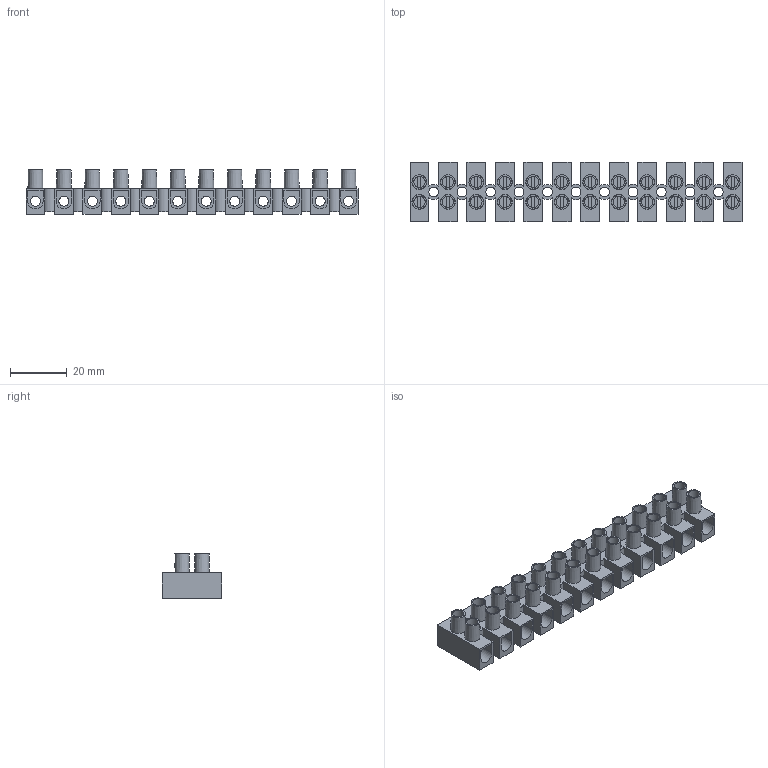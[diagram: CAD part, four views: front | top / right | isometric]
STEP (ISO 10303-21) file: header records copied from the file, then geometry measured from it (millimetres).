
FILE_DESCRIPTION(/* description */ ('Unknown'),/* implementation_level */ '2;1');
FILE_NAME(/* name */ 'MT 1106 PH',/* time_stamp */ '2021-10-08T10:10:41+02:00',/* author */ ('Unknown'),/* organization */ ('Unknown'),/* preprocessor_version */ 'ST-DEVELOPER v16.7',/* originating_system */ 'Solid Edge',/* authorisation */ 'Unknown');
FILE_SCHEMA (('AP203_CONFIGURATION_CONTROLLED_3D_DESIGN_OF_MECHANICAL_PARTS_AND_ASSEMBLIES_MIM_LF { 1 0 10303 203 3 1 4 }','AUTOMOTIVE_DESIGN {1 0 10303 214 3 1 1}'));
Length unit declared in the file: millimetre
Products named in the file (1): MT 1106 PH
Bounding box: 116.6 x 21 x 15.7 mm (x, y, z)
Volume: 11429.5 mm3; surface area: 18566.5 mm2
Topology: 1 solids, 1 shells, 500 faces, 1254 edges, 829 vertices
Faces by surface type: plane 383, cylinder 93, cone 24
Full cylindrical faces by diameter (mm): 3.4 x11, 3.5 x12, 4 x24
Entity records: 14350 total; most frequent: DIRECTION 2466, CARTESIAN_POINT 2441, ORIENTED_EDGE 2294, EDGE_CURVE 1147, LINE 830, VECTOR 830, AXIS2_PLACEMENT_3D 818, VERTEX_POINT 793
